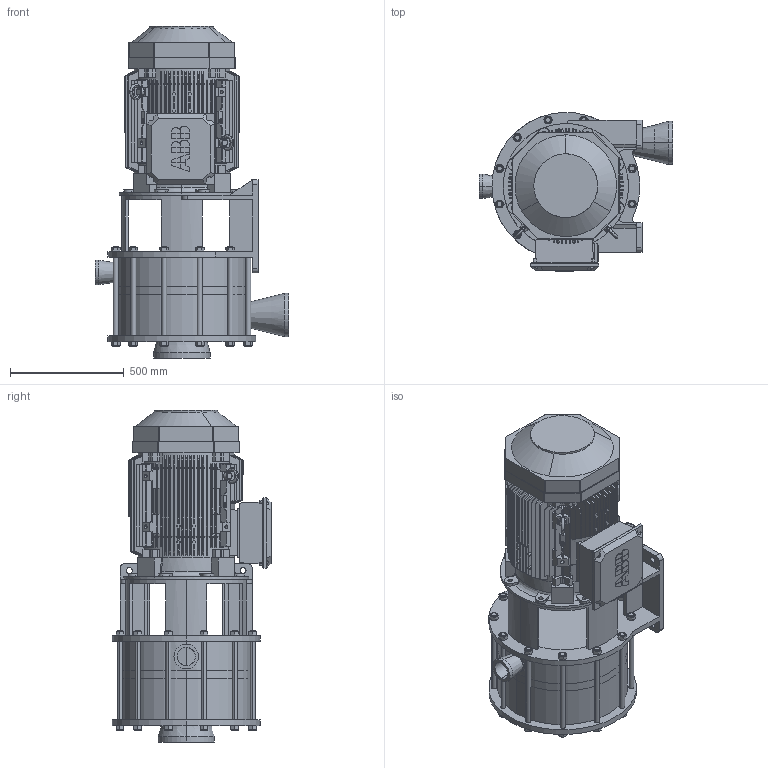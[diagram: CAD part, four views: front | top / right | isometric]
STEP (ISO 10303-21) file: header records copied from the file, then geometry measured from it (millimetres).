
FILE_DESCRIPTION((''),'2;1');
FILE_NAME('MJ150 Plastic--250S frame.stp','2010-08-04T14:26:58',(''),(''),'AutoCAD STEP 2000i','AutoCAD 2000i',', , ');
FILE_SCHEMA(('CONFIG_CONTROL_DESIGN'));
Length unit declared in the file: millimetre
Products named in the file (11): MJ150 PLASTIC--250S FRAME A; Motor; M3BP225SMB; M3BP200ML vertical; M3BP180ML; M3BP160MLB4 (long); Any; AnyAAA; AnyAAAA; AnyA; AnyAA
Assembly tree (5 placements, depth 2):
  MJ150 PLASTIC--250S FRAME A
    Motor
    M3BP225SMB
    M3BP200ML vertical
    M3BP180ML
    M3BP160MLB4 (long)
  Any
  AnyAAA
  AnyAAAA
  AnyA
Bounding box: 851 x 700.72 x 1460.01 mm (x, y, z)
Volume: 238859517.6 mm3; surface area: 9017056.8 mm2
Topology: 22 solids, 190 shells, 3163 faces, 8713 edges, 5637 vertices
Faces by surface type: plane 1172, torus 672, bspline 670, cylinder 537, cone 112
Entity records: 107305 total; most frequent: CARTESIAN_POINT 32896, ORIENTED_EDGE 17320, DIRECTION 13746, EDGE_CURVE 8660, VERTEX_POINT 5637, AXIS2_PLACEMENT_3D 5417, EDGE_LOOP 3351, FACE_OUTER_BOUND 3163
